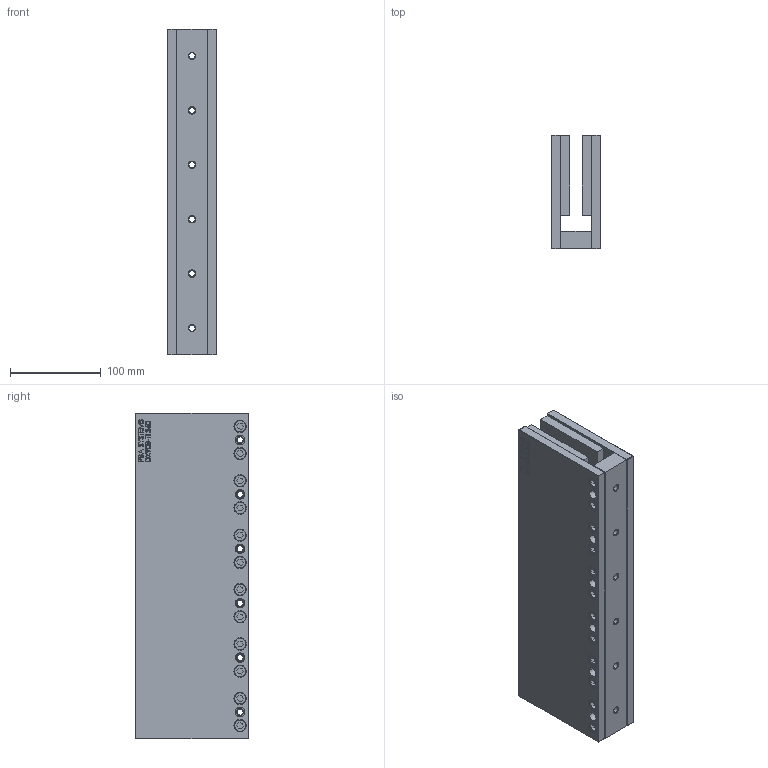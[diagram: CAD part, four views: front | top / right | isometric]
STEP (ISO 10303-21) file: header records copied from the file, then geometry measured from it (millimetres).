
FILE_DESCRIPTION (( 'STEP AP214' ), '1' );
FILE_NAME ('DX90B-TL360.STEP', '2016-05-12T01:09:54', ( '' ), ( '' ), 'SwSTEP 2.0', 'SolidWorks 2015', '' );
FILE_SCHEMA (( 'AUTOMOTIVE_DESIGN' ));
Length unit declared in the file: millimetre
Products named in the file (5): DX90B-TL360; M8X16 DIN7984 STAINLESS STEEL; DX90B-0000-001_CUSTOMER_TL360; DX90B-TL360-002_TL360; DX90B-TL360-001_TL360
Assembly tree (29 placements, depth 2):
  DX90B-TL360
    DX90B-TL360-001_TL360
    DX90B-TL360-002_TL360  x2
    DX90B-0000-001_CUSTOMER_TL360  x2
    M8X16 DIN7984 STAINLESS STEEL  x24
Bounding box: 54 x 125 x 359.5 mm (x, y, z)
Volume: 1721280.5 mm3; surface area: 421927.8 mm2
Topology: 29 solids, 29 shells, 1438 faces, 3420 edges, 2164 vertices
Faces by surface type: plane 658, cylinder 288, bspline 252, cone 144, torus 96
Entity records: 25316 total; most frequent: CARTESIAN_POINT 10668, ORIENTED_EDGE 2892, DIRECTION 2484, EDGE_CURVE 1446, VERTEX_POINT 902, VECTOR 840, LINE 840, AXIS2_PLACEMENT_3D 822
